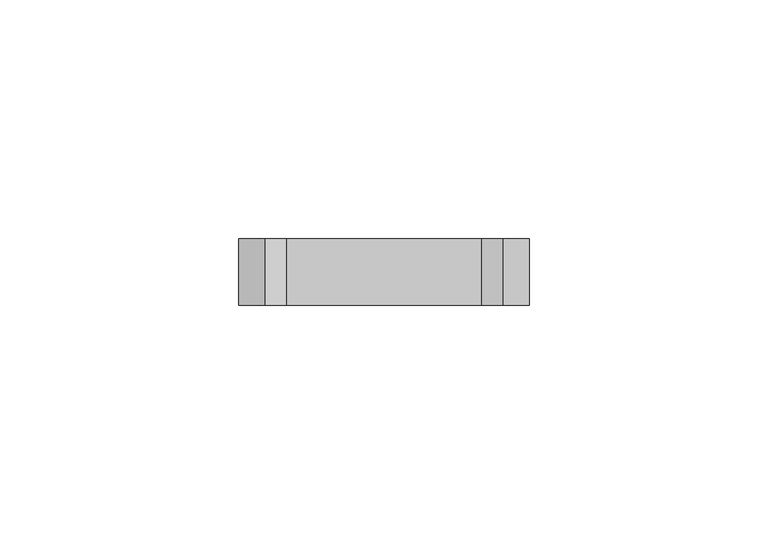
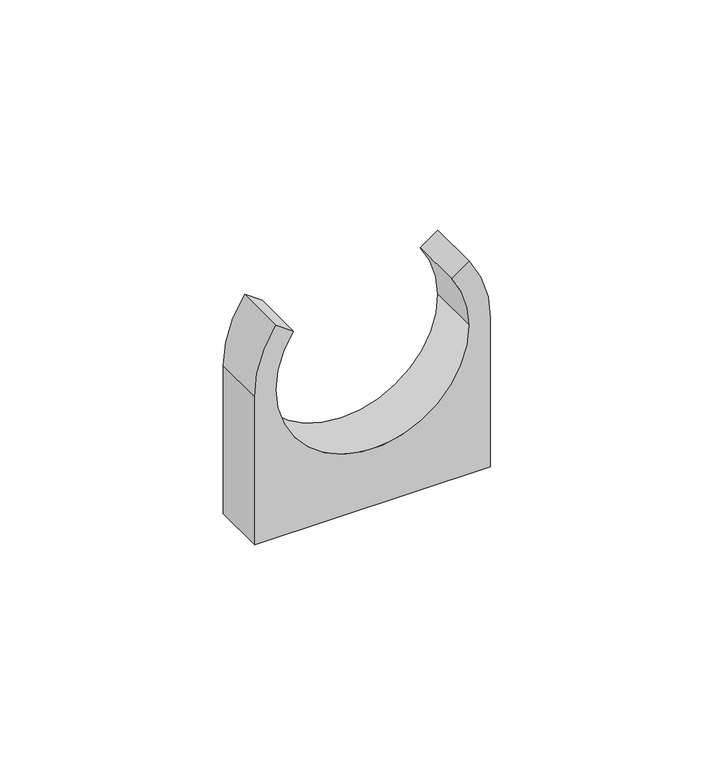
"""IFC4 building model written with IfcOpenShell, lengths in millimetres: cable carrier fitting geometry."""

from ifc_helpers import new_model, si_unit, point, frame, frame_2d, origin, place, context, project, spatial, polyline, circle_curve, trimmed, segment, composite_curve, outline, extrude, source, transform, mapped, element, save


def cable_carrier_fitting_a28cdcb1(model_context):
    return source(origin(), model_context, "Body", "SweptSolid", [
        extrude(outline(composite_curve([segment(polyline([(0.0, -30.5), (0.0, 30.5), (40.5, 30.5)]), True, "CONTINUOUS"), segment(trimmed(circle_curve(frame_2d((40.5, 0.0)), 30.5), [point((40.5, 30.5))], [point((58.0239825, 24.9631736))], False, "CARTESIAN"), True, "CONTINUOUS"), segment(polyline([(58.0239825, 24.9631736), (54.8639201, 20.4616177)]), True, "CONTINUOUS"), segment(trimmed(circle_curve(frame_2d((40.5, 0.0)), 25.0), [point((54.8639201, 20.4616177))], [point((40.5, 25.0))], True, "CARTESIAN"), True, "CONTINUOUS"), segment(trimmed(circle_curve(frame_2d((40.5, 0.0)), 25.0), [point((40.5, 25.0))], [point((40.5, -25.0))], True, "CARTESIAN"), True, "CONTINUOUS"), segment(trimmed(circle_curve(frame_2d((40.5, 0.0)), 25.0), [point((40.5, -25.0))], [point((54.8639201, -20.4616177))], True, "CARTESIAN"), True, "CONTINUOUS"), segment(polyline([(54.8639201, -20.4616177), (58.0239825, -24.9631736)]), True, "CONTINUOUS"), segment(trimmed(circle_curve(frame_2d((40.5, 0.0)), 30.5), [point((58.0239825, -24.9631736))], [point((40.5, -30.5))], False, "CARTESIAN"), True, "CONTINUOUS"), segment(polyline([(40.5, -30.5), (0.0, -30.5)]), True, "CONTINUOUS")], self_intersect=False)), frame((0.0, -7.0, 0.0), z_axis=(0.0, 1.0, 0.0), x_axis=(0.0, 0.0, 1.0)), (0.0, 0.0, 1.0), 14.0),
    ])


if __name__ == "__main__":
    model = new_model("IFC4")
    model_context = context("Model", 3, world=origin())
    ifc_project = project(units=[si_unit("LENGTHUNIT", "METRE", prefix="MILLI")], contexts=[model_context])
    site = spatial("IfcSite", under=ifc_project)
    building = spatial("IfcBuilding", under=site)
    placement = place(None, origin())
    cable_carrier_fitting_shape = cable_carrier_fitting_a28cdcb1(model_context)
    element("IfcCableCarrierFitting", 1, at=placement, inside=building, context=model_context, shape_type="MappedRepresentation", body=[
        mapped(cable_carrier_fitting_shape, transform((0.0, 0.0, 0.0), x_axis=(1.0, 0.0, 0.0), y_axis=(0.0, 1.0, 0.0), z_axis=(0.0, 0.0, 1.0))),
    ])
    save(model, "model.ifc")
